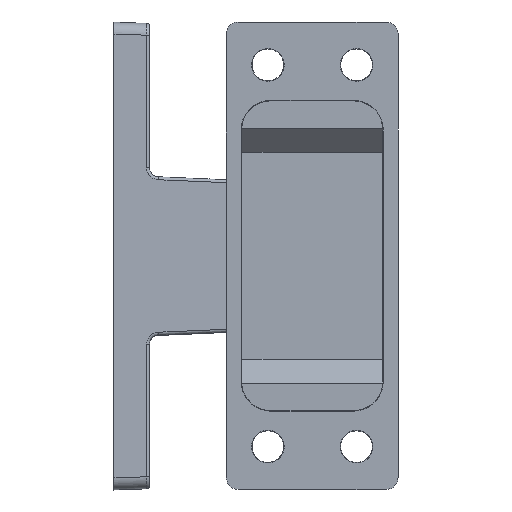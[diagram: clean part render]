
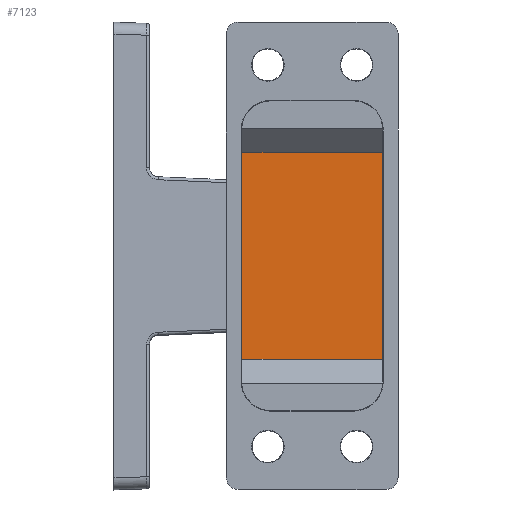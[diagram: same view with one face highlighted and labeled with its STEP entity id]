
A CAD part, top view. The second image highlights one B-rep face of the part: STEP entity #7123.
In plain terms, the highlighted planar face has unit normal (0, 0, 1).
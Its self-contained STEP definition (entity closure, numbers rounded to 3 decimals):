
#96 = LINE ( 'NONE', #7358, #8577 ) ;
#104 = VECTOR ( 'NONE', #155, 1000. ) ;
#155 = DIRECTION ( 'NONE',  ( 0., -1., 0. ) ) ;
#944 = EDGE_CURVE ( 'NONE', #7589, #7750, #6480, .T. ) ;
#1694 = CARTESIAN_POINT ( 'NONE',  ( -11.881, -17.5, -6.8 ) ) ;
#2103 = EDGE_LOOP ( 'NONE', ( #3069, #6033, #5963, #5503 ) ) ;
#2142 = DIRECTION ( 'NONE',  ( 0., 0., 1. ) ) ;
#2253 = CARTESIAN_POINT ( 'NONE',  ( 11.881, -17.5, -6.8 ) ) ;
#2460 = CARTESIAN_POINT ( 'NONE',  ( 11.881, 17.5, -6.8 ) ) ;
#2542 = FACE_OUTER_BOUND ( 'NONE', #2103, .T. ) ;
#2590 = EDGE_CURVE ( 'NONE', #4120, #7589, #5773, .T. ) ;
#2738 = VERTEX_POINT ( 'NONE', #6961 ) ;
#2905 = DIRECTION ( 'NONE',  ( 1., 0., 0. ) ) ;
#3069 = ORIENTED_EDGE ( 'NONE', *, *, #944, .T. ) ;
#3556 = AXIS2_PLACEMENT_3D ( 'NONE', #7196, #2142, #5419 ) ;
#4120 = VERTEX_POINT ( 'NONE', #1694 ) ;
#4655 = DIRECTION ( 'NONE',  ( 0., 1., 0. ) ) ;
#4772 = CARTESIAN_POINT ( 'NONE',  ( 11.881, -28.604, -6.8 ) ) ;
#5191 = PLANE ( 'NONE',  #3556 ) ;
#5419 = DIRECTION ( 'NONE',  ( 1., 0., 0. ) ) ;
#5503 = ORIENTED_EDGE ( 'NONE', *, *, #2590, .T. ) ;
#5773 = LINE ( 'NONE', #8405, #6623 ) ;
#5860 = EDGE_CURVE ( 'NONE', #2738, #4120, #7442, .T. ) ;
#5963 = ORIENTED_EDGE ( 'NONE', *, *, #5860, .T. ) ;
#6033 = ORIENTED_EDGE ( 'NONE', *, *, #7470, .T. ) ;
#6480 = LINE ( 'NONE', #4772, #8041 ) ;
#6623 = VECTOR ( 'NONE', #2905, 1000. ) ;
#6961 = CARTESIAN_POINT ( 'NONE',  ( -11.881, 17.5, -6.8 ) ) ;
#7123 = ADVANCED_FACE ( 'NONE', ( #2542 ), #5191, .T. ) ;
#7196 = CARTESIAN_POINT ( 'NONE',  ( 0., -39.5, -6.8 ) ) ;
#7358 = CARTESIAN_POINT ( 'NONE',  ( 0., 17.5, -6.8 ) ) ;
#7408 = CARTESIAN_POINT ( 'NONE',  ( -11.881, 28.604, -6.8 ) ) ;
#7442 = LINE ( 'NONE', #7408, #104 ) ;
#7470 = EDGE_CURVE ( 'NONE', #7750, #2738, #96, .T. ) ;
#7589 = VERTEX_POINT ( 'NONE', #2253 ) ;
#7750 = VERTEX_POINT ( 'NONE', #2460 ) ;
#8002 = DIRECTION ( 'NONE',  ( -1., 0., 0. ) ) ;
#8041 = VECTOR ( 'NONE', #4655, 1000. ) ;
#8405 = CARTESIAN_POINT ( 'NONE',  ( 34.5, -17.5, -6.8 ) ) ;
#8577 = VECTOR ( 'NONE', #8002, 1000. ) ;
